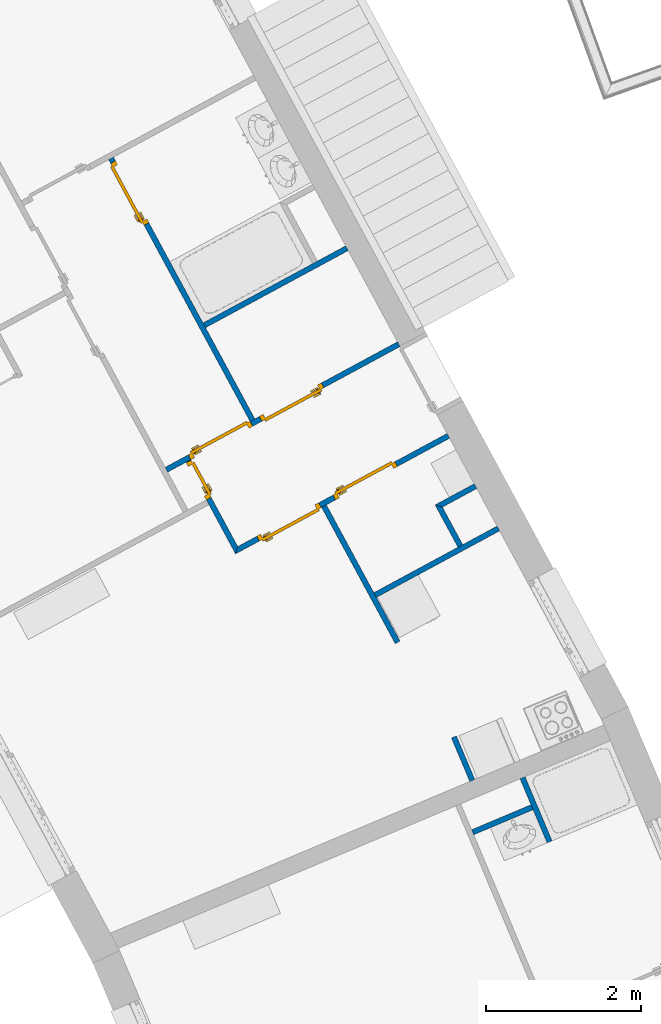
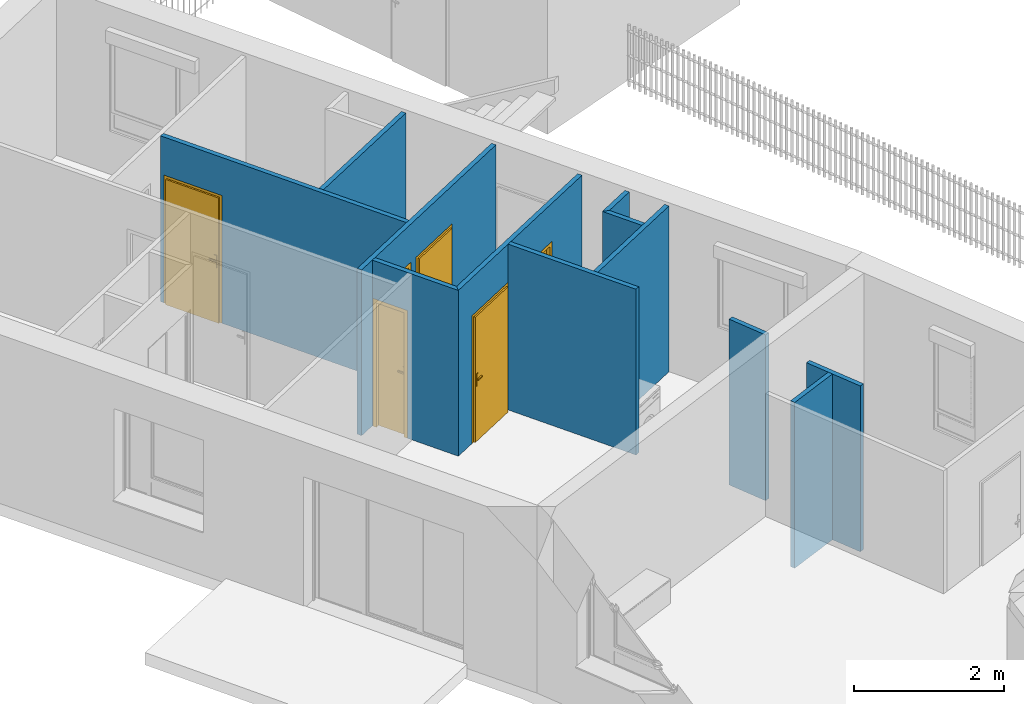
# One storey, part 65 of 195: 12 walls, 6 doors, 6 openings.
"""IFC2X3 building model written with IfcOpenShell, lengths in metres."""

from ifc_helpers import new_model, entity, si_unit, converted_unit, derived_unit, money_unit, direction, frame, origin_with_axes, origin_2d_with_axis, place, context, subcontext, project, spatial, polyline, rectangle, outline, extrude, faceted_brep, source, transform, mapped, material, layer, layer_set, layer_usage, type_object, element, fill, save


model = new_model("IFC2X3")

# Units and contexts
model_context = context("Model", 3, precision=1e-05, world=origin_with_axes(), true_north=direction((0.0, 1.0)))
body_context = subcontext(model_context, "Body", "Model", "MODEL_VIEW")
ifc_project = project(units=[si_unit("LENGTHUNIT", "METRE"), si_unit("AREAUNIT", "SQUARE_METRE"), si_unit("VOLUMEUNIT", "CUBIC_METRE"), converted_unit("PLANEANGLEUNIT", "DEGREE", entity("IfcPlaneAngleMeasure", 0.0174532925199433), si_unit("PLANEANGLEUNIT", "RADIAN"), dimensions=[0, 0, 0, 0, 0, 0, 0]), money_unit("CHF"), converted_unit("TIMEUNIT", "Year", entity("IfcTimeMeasure", 31557600.0), si_unit("TIMEUNIT", "SECOND"), dimensions=[0, 0, 1, 0, 0, 0, 0]), si_unit("MASSUNIT", "GRAM", prefix="KILO"), si_unit("THERMODYNAMICTEMPERATUREUNIT", "DEGREE_CELSIUS"), si_unit("LUMINOUSINTENSITYUNIT", "LUMEN"), si_unit("ENERGYUNIT", "JOULE", prefix="MEGA"), derived_unit("THERMALCONDUCTANCEUNIT", [(si_unit("POWERUNIT", "WATT"), 1), (si_unit("LENGTHUNIT", "METRE"), -1), (si_unit("THERMODYNAMICTEMPERATUREUNIT", "KELVIN"), -1)]), derived_unit("SPECIFICHEATCAPACITYUNIT", [(si_unit("ENERGYUNIT", "JOULE"), 1), (si_unit("MASSUNIT", "GRAM", prefix="KILO"), -1), (si_unit("THERMODYNAMICTEMPERATUREUNIT", "KELVIN"), -1)]), derived_unit("MASSDENSITYUNIT", [(si_unit("MASSUNIT", "GRAM", prefix="KILO"), 1), (si_unit("VOLUMEUNIT", "CUBIC_METRE"), -1)])], contexts=[model_context])

# Site, building, storey
site_placement = place(None, origin_with_axes())
site = spatial("IfcSite", under=ifc_project, at=site_placement, Name="Site", CompositionType="ELEMENT")
building_placement = place(site_placement, origin_with_axes())
building = spatial("IfcBuilding", under=site, at=building_placement, Name="Bâtiment", CompositionType="ELEMENT")
storey_placement = place(building_placement, origin_with_axes())
storey = spatial("IfcBuildingStorey", under=building, at=storey_placement, Name="rdc", CompositionType="ELEMENT", Elevation=0.0)

# Walls
ifc_material = material(Name="Hachure solide 268963992")
ifc_layer = layer(ifc_material, 0.07, ventilated="UNKNOWN")
ifc_layer_set = layer_set([ifc_layer], Name="Cloison 70 0826278243")
ifc_layer_usage_1 = layer_usage(ifc_layer_set, "AXIS2", "POSITIVE", 0.0)
wall_type = type_object("IfcWallType", Name="Cloison 70 0826278243 70", PredefinedType="NOTDEFINED")
wall_1_placement = place(storey_placement, frame((9566.372397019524, -1036.978897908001, 57.0), z_axis=(0.0, 0.0, 1.0), x_axis=(-0.3885669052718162, 0.9214205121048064, 0.0)))
element("IfcWallStandardCase", 1, at=wall_1_placement, inside=storey, type_object=wall_type, material=ifc_layer_usage_1, Name="Mur-149", context=body_context, shape_type="SweptSolid", body=[
    extrude(outline(polyline([(0.0, 0.0), (0.8999999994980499, 0.0), (0.8999999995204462, 0.06999999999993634), (0.0, 0.07000000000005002), (0.0, 0.0)])), origin_with_axes(), (0.0, 0.0, 1.0), 2.7),
])
ifc_layer_usage_2 = layer_usage(ifc_layer_set, "AXIS2", "POSITIVE", 0.0)
wall_2_placement = place(storey_placement, frame((9565.35814409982, -1036.901583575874, 57.0), z_axis=(0.0, 0.0, 1.0), x_axis=(0.9214205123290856, 0.388566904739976, 0.0)))
element("IfcWallStandardCase", 2, at=wall_2_placement, inside=storey, type_object=wall_type, material=ifc_layer_usage_2, Name="Mur-149", context=body_context, shape_type="SweptSolid", body=[
    extrude(outline(polyline([(-1.045918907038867e-10, 0.0), (0.8345116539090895, 0.0), (0.834511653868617, 0.06999999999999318), (-1.325588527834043e-10, 0.07000000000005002), (-1.045918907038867e-10, 0.0)])), origin_with_axes(), (0.0, 0.0, 1.0), 2.7),
])
ifc_layer_usage_3 = layer_usage(ifc_layer_set, "AXIS2", "NEGATIVE", 0.0)
wall_3_placement = place(storey_placement, frame((9565.134494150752, -1035.62117375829, 57.7), z_axis=(0.0, 0.0, 1.0), x_axis=(0.3885669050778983, -0.9214205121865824, 0.0)))
element("IfcWallStandardCase", 3, at=wall_3_placement, inside=storey, type_object=wall_type, material=ifc_layer_usage_3, Name="Mur-149", context=body_context, shape_type="SweptSolid", body=[
    extrude(outline(polyline([(0.0, -0.06999999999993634), (0.6120429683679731, -0.06999999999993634), (0.6120429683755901, 0.0), (0.0, 0.0), (0.0, -0.06999999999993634)])), origin_with_axes(), (0.0, 0.0, 1.0), 2.7),
])
ifc_layer_usage_4 = layer_usage(ifc_layer_set, "AXIS2", "NEGATIVE", 0.0)
wall_4_placement = place(storey_placement, frame((9564.069137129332, -1029.160738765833, 57.7), z_axis=(0.0, 0.0, 1.0), x_axis=(-0.8798137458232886, -0.4753186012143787, 0.0)))
element("IfcWallStandardCase", 4, at=wall_4_placement, inside=storey, type_object=wall_type, material=ifc_layer_usage_4, Name="Mur-149", context=body_context, shape_type="SweptSolid", body=[
    extrude(outline(polyline([(0.3799999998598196, -0.07000000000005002), (2.478769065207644, -0.06999999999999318), (2.478769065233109, 0.0), (0.3799999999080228, 0.0), (0.3799999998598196, -0.07000000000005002)])), origin_with_axes(), (0.0, 0.0, 1.0), 2.7),
])
ifc_layer_usage_5 = layer_usage(ifc_layer_set, "AXIS2", "NEGATIVE", 0.0)
wall_5_placement = place(storey_placement, frame((9563.451637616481, -1032.631627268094, 57.7), z_axis=(0.0, 0.0, 1.0), x_axis=(0.4753186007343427, -0.8798137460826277, 0.0)))
element("IfcWallStandardCase", 5, at=wall_5_placement, inside=storey, type_object=wall_type, material=ifc_layer_usage_5, Name="Mur-149", context=body_context, shape_type="SweptSolid", body=[
    extrude(outline(polyline([(-7.915446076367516e-10, -0.06999999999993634), (2.00396996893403, -0.06999999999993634), (2.003969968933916, 0.0), (-7.685230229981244e-10, 0.0), (-7.915446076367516e-10, -0.06999999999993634)])), origin_with_axes(), (0.0, 0.0, 1.0), 2.7),
])
ifc_layer_usage_6 = layer_usage(ifc_layer_set, "AXIS2", "NEGATIVE", 0.0)
wall_6_placement = place(storey_placement, frame((9565.154317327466, -1033.180441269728, 57.7), z_axis=(0.0, 0.0, 1.0), x_axis=(-0.4753185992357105, 0.8798137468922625, 0.0)))
element("IfcWallStandardCase", 6, at=wall_6_placement, inside=storey, type_object=wall_type, material=ifc_layer_usage_6, Name="Mur-149", context=body_context, shape_type="SweptSolid", body=[
    extrude(outline(polyline([(0.0, -0.07000000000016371), (0.5522261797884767, -0.07000000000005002), (0.6222241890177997, 0.0), (0.0, 0.0), (0.0, -0.07000000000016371)])), origin_with_axes(), (0.0, 0.0, 1.0), 2.7),
])

# Wall, openings, doors
ifc_layer_usage_7 = layer_usage(ifc_layer_set, "AXIS2", "NEGATIVE", 0.0)
wall_7_placement = place(storey_placement, frame((9564.74015638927, -1030.402794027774, 57.7), z_axis=(0.0, 0.0, 1.0), x_axis=(-0.8798137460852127, -0.4753186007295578, 0.0)))
wall_7 = element("IfcWallStandardCase", 7, at=wall_7_placement, inside=storey, type_object=wall_type, material=ifc_layer_usage_7, Name="Mur-149", context=body_context, shape_type="SweptSolid", body=[
    extrude(outline(polyline([(0.3799999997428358, -0.06999999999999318), (3.798769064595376, -0.06999999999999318), (3.79876906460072, 0.0), (0.3799999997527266, 0.0), (0.3799999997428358, -0.06999999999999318)])), origin_with_axes(), (0.0, 0.0, 1.0), 2.7),
])
opening_1_placement = place(wall_7_placement, frame((1.956257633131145, 0.0, 0.0), z_axis=(0.0, 0.0, 1.0), x_axis=(1.0, 0.0, 0.0)))
opening_1 = element("IfcOpeningElement", 8, at=opening_1_placement, cuts=wall_7, Name="Por-299", context=body_context, shape_type="SweptSolid", body=[
    extrude(rectangle(XDim=0.9099999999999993, YDim=2.079999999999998, at=origin_2d_with_axis()), frame((0.0, -0.06999999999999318, 1.039999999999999), z_axis=(0.0, 1.0, 0.0), x_axis=(1.0, 0.0, 0.0)), (0.0, 0.0, 1.0), 0.14),
])
opening_2_placement = place(wall_7_placement, frame((3.002404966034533, 0.0, 0.0), z_axis=(0.0, 0.0, 1.0), x_axis=(1.0, 0.0, 0.0)))
opening_2 = element("IfcOpeningElement", 9, at=opening_2_placement, cuts=wall_7, Name="Por-299", context=body_context, shape_type="SweptSolid", body=[
    extrude(rectangle(XDim=0.9099999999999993, YDim=2.079999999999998, at=origin_2d_with_axis()), frame((0.0, 0.06999999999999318, 1.039999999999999), z_axis=(0.0, -1.0, 0.0), x_axis=(-1.0, 0.0, 0.0)), (0.0, 0.0, 1.0), 0.14),
])
door_style = type_object("IfcDoorStyle", Name="Porte_1v", ConstructionType="NOTDEFINED", OperationType="NOTDEFINED", ParameterTakesPrecedence=False, Sizeable=False)
shared_shape_1 = source(origin_with_axes(), body_context, "Body", "Brep", [
    faceted_brep([(0.455, 0.0, 0.0), (0.415, 0.0, 0.0), (0.415, 0.0, 2.04), (-0.415, 0.0, 2.04), (-0.415, 0.0, 0.0), (-0.455, 0.0, 0.0), (-0.455, 0.0, 2.08), (0.455, 0.0, 2.08), (0.455, -0.07, 0.0), (0.4, -0.07, 0.0), (0.4, -0.015, 0.0), (0.415, -0.015, 0.0), (0.415, -0.015, 2.04), (-0.415, -0.015, 2.04), (-0.415, -0.015, 0.0), (-0.4, -0.015, 0.0), (-0.4, -0.07, 0.0), (-0.455, -0.07, 0.0), (-0.455, -0.07, 2.08), (0.455, -0.07, 2.08), (-0.4, -0.07, 2.025), (0.4, -0.07, 2.025), (0.4, -0.015, 2.025), (-0.4, -0.015, 2.025)], [[[0, 1, 2, 3, 4, 5, 6, 7]], [[0, 8, 9, 10, 11, 1]], [[1, 11, 12, 2]], [[2, 12, 13, 3]], [[3, 13, 14, 4]], [[5, 4, 14, 15, 16, 17]], [[18, 6, 5, 17]], [[19, 7, 6, 18]], [[8, 0, 7, 19]], [[9, 8, 19, 18, 17, 16, 20, 21]], [[10, 9, 21, 22]], [[11, 10, 22, 23, 15, 14, 13, 12]], [[23, 20, 16, 15]], [[22, 21, 20, 23]]]),
    faceted_brep([(-0.35, -0.015, 0.9), (-0.39, -0.015, 0.9), (-0.39, -0.015, 1.1), (-0.35, -0.015, 1.1), (-0.35, -0.025, 0.9), (-0.39, -0.025, 0.9), (-0.39, -0.025, 1.1), (-0.35, -0.025, 1.1)], [[[0, 1, 2, 3]], [[1, 0, 4, 5]], [[2, 1, 5, 6]], [[3, 2, 6, 7]], [[0, 3, 7, 4]], [[5, 4, 7, 6]]]),
    faceted_brep([(-0.28, -0.025, 1.0), (-0.38, -0.025, 1.0), (-0.38, -0.025, 1.02), (-0.28, -0.025, 1.02), (-0.28, -0.045, 1.0), (-0.38, -0.045, 1.0), (-0.38, -0.045, 1.02), (-0.28, -0.045, 1.02)], [[[0, 1, 2, 3]], [[1, 0, 4, 5]], [[2, 1, 5, 6]], [[3, 2, 6, 7]], [[0, 3, 7, 4]], [[5, 4, 7, 6]]]),
    faceted_brep([(-0.35, 0.035, 0.9), (-0.39, 0.035, 0.9), (-0.39, 0.035, 1.1), (-0.35, 0.035, 1.1), (-0.35, 0.025, 0.9), (-0.39, 0.025, 0.9), (-0.39, 0.025, 1.1), (-0.35, 0.025, 1.1)], [[[0, 1, 2, 3]], [[1, 0, 4, 5]], [[2, 1, 5, 6]], [[3, 2, 6, 7]], [[0, 3, 7, 4]], [[5, 4, 7, 6]]]),
    faceted_brep([(-0.28, 0.05500000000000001, 1.0), (-0.38, 0.05500000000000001, 1.0), (-0.38, 0.05500000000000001, 1.02), (-0.28, 0.05500000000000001, 1.02), (-0.28, 0.035, 1.0), (-0.38, 0.035, 1.0), (-0.38, 0.035, 1.02), (-0.28, 0.035, 1.02)], [[[0, 1, 2, 3]], [[1, 0, 4, 5]], [[2, 1, 5, 6]], [[3, 2, 6, 7]], [[0, 3, 7, 4]], [[5, 4, 7, 6]]]),
    faceted_brep([(-0.415, 0.025, 0.0), (0.415, 0.025, 0.0), (0.415, -0.015, 0.0), (-0.415, -0.015, 0.0), (-0.415, 0.025, 2.04), (0.415, 0.025, 2.04), (0.415, -0.015, 2.04), (-0.415, -0.015, 2.04)], [[[0, 1, 2, 3]], [[0, 4, 5, 1]], [[1, 5, 6, 2]], [[3, 2, 6, 7]], [[4, 0, 3, 7]], [[5, 4, 7, 6]]]),
])
door_1_placement = place(opening_1_placement, frame((-0.4150000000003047, 0.0, 0.0), z_axis=(0.0, 0.0, 1.0), x_axis=(1.0, 0.0, 0.0)))
door_1 = element("IfcDoor", 10, at=door_1_placement, inside=storey, type_object=door_style, Name="Por-299", OverallHeight=2.04, OverallWidth=0.83, context=body_context, shape_type="MappedRepresentation", body=[
    mapped(shared_shape_1, transform((0.4150000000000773, 0.0, 0.0))),
])
fill(opening_1, door_1)
door_2_placement = place(opening_2_placement, frame((0.4149999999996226, 0.0, 0.0), z_axis=(0.0, 0.0, 1.0), x_axis=(-1.0, 0.0, 0.0)))
door_2 = element("IfcDoor", 11, at=door_2_placement, inside=storey, type_object=door_style, Name="Por-299", OverallHeight=2.04, OverallWidth=0.83, context=body_context, shape_type="MappedRepresentation", body=[
    mapped(shared_shape_1, transform((0.4150000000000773, 0.06999999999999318, 0.0))),
])
fill(opening_2, door_2)

# Walls
ifc_layer_usage_8 = layer_usage(ifc_layer_set, "AXIS2", "POSITIVE", 0.0)
wall_8_placement = place(storey_placement, frame((9564.099102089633, -1033.830082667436, 57.7), z_axis=(0.0, 0.0, 1.0), x_axis=(0.8798137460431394, 0.4753186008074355, 0.0)))
element("IfcWallStandardCase", 12, at=wall_8_placement, inside=storey, type_object=wall_type, material=ifc_layer_usage_8, Name="Mur-149", context=body_context, shape_type="SweptSolid", body=[
    extrude(outline(polyline([(-1.220996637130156e-10, 0.0), (1.813062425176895, 0.0), (1.813062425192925, 0.07000000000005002), (-1.161879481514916e-10, 0.07000000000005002), (-1.220996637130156e-10, 0.0)])), origin_with_axes(), (0.0, 0.0, 1.0), 2.7),
])
ifc_layer_usage_9 = layer_usage(ifc_layer_set, "AXIS2", "POSITIVE", 0.0)
wall_9_placement = place(storey_placement, frame((9564.891834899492, -1032.694586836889, 57.7), z_axis=(0.0, 0.0, 1.0), x_axis=(0.8798002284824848, 0.4753436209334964, 0.0)))
element("IfcWallStandardCase", 13, at=wall_9_placement, inside=storey, type_object=wall_type, material=ifc_layer_usage_9, Name="Mur-149", context=body_context, shape_type="SweptSolid", body=[
    extrude(outline(polyline([(0.07000000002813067, 0.0), (0.5758829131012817, 0.0), (0.5758849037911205, 0.07000000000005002), (1.990798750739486e-06, 0.06999999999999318), (0.07000000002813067, 0.0)])), origin_with_axes(), (0.0, 0.0, 1.0), 2.7),
])

# Wall, opening, door
ifc_layer_usage_10 = layer_usage(ifc_layer_set, "AXIS2", "NEGATIVE", 0.0)
wall_10_placement = place(storey_placement, frame((9562.276464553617, -1033.26651347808, 57.7), z_axis=(0.0, 0.0, 1.0), x_axis=(-0.4753186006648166, 0.8798137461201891, 0.0)))
wall_10 = element("IfcWallStandardCase", 14, at=wall_10_placement, inside=storey, type_object=wall_type, material=ifc_layer_usage_10, Name="Mur-149", context=body_context, shape_type="SweptSolid", body=[
    extrude(outline(polyline([(0.07000000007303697, -0.06999999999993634), (1.348501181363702, -0.07000000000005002), (1.348501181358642, 0.0), (0.0, 0.0), (0.07000000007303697, -0.06999999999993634)])), origin_with_axes(), (0.0, 0.0, 1.0), 2.7),
])
opening_3_placement = place(wall_10_placement, frame((1.067283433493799, 0.0, 0.0), z_axis=(0.0, 0.0, 1.0), x_axis=(1.0, 0.0, 0.0)))
opening_3 = element("IfcOpeningElement", 15, at=opening_3_placement, cuts=wall_10, Name="Por-320", context=body_context, shape_type="SweptSolid", body=[
    extrude(rectangle(XDim=0.547405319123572, YDim=2.079999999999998, at=origin_2d_with_axis()), frame((-2.722629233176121e-09, 0.06999999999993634, 1.039999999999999), z_axis=(0.0, 1.0, 0.0), x_axis=(1.0, 0.0, 0.0)), (0.0, 0.0, -1.0), 0.14),
])
shared_shape_2 = source(origin_with_axes(), body_context, "Body", "Brep", [
    faceted_brep([(-0.2737026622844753, 0.0, 0.0), (-0.2737026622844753, 0.0, 2.08), (0.2737026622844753, 0.0, 2.08), (0.2737026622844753, 0.0, 0.0), (0.2337026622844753, 0.0, 0.0), (0.2337026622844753, 0.0, 2.04), (-0.2337026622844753, 0.0, 2.04), (-0.2337026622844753, 0.0, 0.0), (-0.2737026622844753, -0.07, 0.0), (-0.2737026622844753, -0.07, 2.08), (0.2737026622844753, -0.07, 2.08), (0.2737026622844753, -0.07, 0.0), (0.2187026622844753, -0.07, 0.0), (0.2187026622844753, -0.015, 0.0), (0.2337026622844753, -0.015, 0.0), (0.2337026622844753, -0.015, 2.04), (-0.2337026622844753, -0.015, 2.04), (-0.2337026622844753, -0.015, 0.0), (-0.2187026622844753, -0.015, 0.0), (-0.2187026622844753, -0.07, 0.0), (-0.2187026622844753, -0.07, 2.025), (0.2187026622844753, -0.07, 2.025), (0.2187026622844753, -0.015, 2.025), (-0.2187026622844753, -0.015, 2.025)], [[[0, 1, 2, 3, 4, 5, 6, 7]], [[8, 9, 1, 0]], [[9, 10, 2, 1]], [[10, 11, 3, 2]], [[3, 11, 12, 13, 14, 4]], [[5, 4, 14, 15]], [[6, 5, 15, 16]], [[7, 6, 16, 17]], [[0, 7, 17, 18, 19, 8]], [[19, 20, 21, 12, 11, 10, 9, 8]], [[22, 13, 12, 21]], [[17, 16, 15, 14, 13, 22, 23, 18]], [[18, 23, 20, 19]], [[23, 22, 21, 20]]]),
    faceted_brep([(0.1687026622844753, -0.015, 0.9), (0.1687026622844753, -0.015, 1.1), (0.2087026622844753, -0.015, 1.1), (0.2087026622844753, -0.015, 0.9), (0.1687026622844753, -0.025, 0.9), (0.1687026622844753, -0.025, 1.1), (0.2087026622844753, -0.025, 1.1), (0.2087026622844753, -0.025, 0.9)], [[[0, 1, 2, 3]], [[0, 4, 5, 1]], [[1, 5, 6, 2]], [[2, 6, 7, 3]], [[3, 7, 4, 0]], [[7, 6, 5, 4]]]),
    faceted_brep([(0.0987026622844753, -0.025, 1.0), (0.0987026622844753, -0.025, 1.02), (0.1987026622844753, -0.025, 1.02), (0.1987026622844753, -0.025, 1.0), (0.0987026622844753, -0.045, 1.0), (0.0987026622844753, -0.045, 1.02), (0.1987026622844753, -0.045, 1.02), (0.1987026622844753, -0.045, 1.0)], [[[0, 1, 2, 3]], [[0, 4, 5, 1]], [[1, 5, 6, 2]], [[2, 6, 7, 3]], [[3, 7, 4, 0]], [[7, 6, 5, 4]]]),
    faceted_brep([(0.1687026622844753, 0.035, 0.9), (0.1687026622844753, 0.035, 1.1), (0.2087026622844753, 0.035, 1.1), (0.2087026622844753, 0.035, 0.9), (0.1687026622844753, 0.025, 0.9), (0.1687026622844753, 0.025, 1.1), (0.2087026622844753, 0.025, 1.1), (0.2087026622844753, 0.025, 0.9)], [[[0, 1, 2, 3]], [[0, 4, 5, 1]], [[1, 5, 6, 2]], [[2, 6, 7, 3]], [[3, 7, 4, 0]], [[7, 6, 5, 4]]]),
    faceted_brep([(0.0987026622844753, 0.05500000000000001, 1.0), (0.0987026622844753, 0.05500000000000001, 1.02), (0.1987026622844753, 0.05500000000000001, 1.02), (0.1987026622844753, 0.05500000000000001, 1.0), (0.0987026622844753, 0.035, 1.0), (0.0987026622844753, 0.035, 1.02), (0.1987026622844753, 0.035, 1.02), (0.1987026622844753, 0.035, 1.0)], [[[0, 1, 2, 3]], [[0, 4, 5, 1]], [[1, 5, 6, 2]], [[2, 6, 7, 3]], [[3, 7, 4, 0]], [[7, 6, 5, 4]]]),
    faceted_brep([(0.2337026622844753, 0.025, 0.0), (0.2337026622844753, -0.015, 0.0), (-0.2337026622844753, -0.015, 0.0), (-0.2337026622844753, 0.025, 0.0), (0.2337026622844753, 0.025, 2.04), (0.2337026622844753, -0.015, 2.04), (-0.2337026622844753, -0.015, 2.04), (-0.2337026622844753, 0.025, 2.04)], [[[0, 1, 2, 3]], [[4, 5, 1, 0]], [[1, 5, 6, 2]], [[3, 2, 6, 7]], [[0, 3, 7, 4]], [[7, 6, 5, 4]]]),
])
door_3_placement = place(opening_3_placement, frame((0.233702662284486, 0.0, 0.0), z_axis=(0.0, 0.0, 1.0), x_axis=(-1.0, 0.0, 0.0)))
door_3 = element("IfcDoor", 16, at=door_3_placement, inside=storey, type_object=door_style, Name="Por-320", OverallHeight=2.04, OverallWidth=0.467405, context=body_context, shape_type="MappedRepresentation", body=[
    mapped(shared_shape_2, transform((0.2337026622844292, 0.07000000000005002, 0.0))),
])
fill(opening_3, door_3)

ifc_layer_usage_11 = layer_usage(ifc_layer_set, "AXIS2", "NEGATIVE", 0.0)
wall_11_placement = place(storey_placement, frame((9560.696009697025, -1028.132050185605, 57.7), z_axis=(0.0, 0.0, 1.0), x_axis=(0.4753186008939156, -0.8798137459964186, 0.0)))
wall_11 = element("IfcWallStandardCase", 17, at=wall_11_placement, inside=storey, type_object=wall_type, material=ifc_layer_usage_11, Name="Mur-149", context=body_context, shape_type="SweptSolid", body=[
    extrude(outline(polyline([(-9.787299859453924e-10, -0.07000000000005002), (3.850089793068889, -0.06999999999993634), (3.85008979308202, 0.0), (-9.381437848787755e-10, 0.0), (-9.787299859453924e-10, -0.07000000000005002)])), origin_with_axes(), (0.0, 0.0, 1.0), 2.7),
])
opening_4_placement = place(wall_11_placement, frame((0.5097203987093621, 0.0, 0.0), z_axis=(0.0, 0.0, 1.0), x_axis=(1.0, 0.0, 0.0)))
opening_4 = element("IfcOpeningElement", 18, at=opening_4_placement, cuts=wall_11, Name="Por-299", context=body_context, shape_type="SweptSolid", body=[
    extrude(rectangle(XDim=0.9099999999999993, YDim=2.079999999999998, at=origin_2d_with_axis()), frame((0.0, 0.07000000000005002, 1.039999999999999), z_axis=(0.0, -1.0, 0.0), x_axis=(-1.0, 0.0, 0.0)), (0.0, 0.0, 1.0), 0.14),
])
door_4_placement = place(opening_4_placement, frame((0.4149999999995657, 0.0, 0.0), z_axis=(0.0, 0.0, 1.0), x_axis=(-1.0, 0.0, 0.0)))
door_4 = element("IfcDoor", 19, at=door_4_placement, inside=storey, type_object=door_style, Name="Por-299", OverallHeight=2.04, OverallWidth=0.83, context=body_context, shape_type="MappedRepresentation", body=[
    mapped(shared_shape_1, transform((0.4150000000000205, 0.06999999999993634, 0.0))),
])
fill(opening_4, door_4)

# Wall, openings, doors
ifc_layer_usage_12 = layer_usage(ifc_layer_set, "AXIS2", "POSITIVE", 0.0)
wall_12_placement = place(storey_placement, frame((9562.276464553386, -1033.266513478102, 57.7), z_axis=(0.0, 0.0, 1.0), x_axis=(0.8798137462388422, 0.4753186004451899, 0.0)))
wall_12 = element("IfcWallStandardCase", 20, at=wall_12_placement, inside=storey, type_object=wall_type, material=ifc_layer_usage_12, Name="Mur-149", context=body_context, shape_type="SweptSolid", body=[
    extrude(outline(polyline([(2.146407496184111e-10, 0.0), (3.148769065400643, 0.0), (3.14876906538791, 0.06999999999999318), (0.07000000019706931, 0.06999999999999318), (2.146407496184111e-10, 0.0)])), origin_with_axes(), (0.0, 0.0, 1.0), 2.7),
])
opening_5_placement = place(wall_12_placement, frame((1.926126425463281, 0.0, 0.0), z_axis=(0.0, 0.0, 1.0), x_axis=(1.0, 0.0, 0.0)))
opening_5 = element("IfcOpeningElement", 21, at=opening_5_placement, cuts=wall_12, Name="Por-299", context=body_context, shape_type="SweptSolid", body=[
    extrude(rectangle(XDim=0.9099999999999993, YDim=2.079999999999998, at=origin_2d_with_axis()), frame((0.0, -0.06999999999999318, 1.039999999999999), z_axis=(0.0, 1.0, 0.0), x_axis=(1.0, 0.0, 0.0)), (0.0, 0.0, 1.0), 0.14),
])
opening_6_placement = place(wall_12_placement, frame((0.8050034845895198, 0.0, 0.0), z_axis=(0.0, 0.0, 1.0), x_axis=(1.0, 0.0, 0.0)))
opening_6 = element("IfcOpeningElement", 22, at=opening_6_placement, cuts=wall_12, Name="Por-299", context=body_context, shape_type="SweptSolid", body=[
    extrude(rectangle(XDim=0.9099999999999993, YDim=2.079999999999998, at=origin_2d_with_axis()), frame((0.0, 0.06999999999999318, 1.039999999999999), z_axis=(0.0, 1.0, 0.0), x_axis=(1.0, 0.0, 0.0)), (0.0, 0.0, -1.0), 0.14),
])
door_5_placement = place(opening_5_placement, frame((-0.4149999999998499, 0.0, 0.0), z_axis=(0.0, 0.0, 1.0), x_axis=(1.0, 0.0, 0.0)))
door_5 = element("IfcDoor", 23, at=door_5_placement, inside=storey, type_object=door_style, Name="Por-299", OverallHeight=2.04, OverallWidth=0.83, context=body_context, shape_type="MappedRepresentation", body=[
    mapped(shared_shape_1, transform((0.4149999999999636, 0.06999999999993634, 0.0))),
])
fill(opening_5, door_5)
shared_shape_3 = source(origin_with_axes(), body_context, "Body", "Brep", [
    faceted_brep([(-0.455, 0.0, 0.0), (-0.455, 0.0, 2.08), (0.455, 0.0, 2.08), (0.455, 0.0, 0.0), (0.415, 0.0, 0.0), (0.415, 0.0, 2.04), (-0.415, 0.0, 2.04), (-0.415, 0.0, 0.0), (-0.455, -0.07, 0.0), (-0.455, -0.07, 2.08), (0.455, -0.07, 2.08), (0.455, -0.07, 0.0), (0.4, -0.07, 0.0), (0.4, -0.015, 0.0), (0.415, -0.015, 0.0), (0.415, -0.015, 2.04), (-0.415, -0.015, 2.04), (-0.415, -0.015, 0.0), (-0.4, -0.015, 0.0), (-0.4, -0.07, 0.0), (-0.4, -0.07, 2.025), (0.4, -0.07, 2.025), (0.4, -0.015, 2.025), (-0.4, -0.015, 2.025)], [[[0, 1, 2, 3, 4, 5, 6, 7]], [[8, 9, 1, 0]], [[9, 10, 2, 1]], [[10, 11, 3, 2]], [[3, 11, 12, 13, 14, 4]], [[5, 4, 14, 15]], [[6, 5, 15, 16]], [[7, 6, 16, 17]], [[0, 7, 17, 18, 19, 8]], [[19, 20, 21, 12, 11, 10, 9, 8]], [[22, 13, 12, 21]], [[17, 16, 15, 14, 13, 22, 23, 18]], [[18, 23, 20, 19]], [[23, 22, 21, 20]]]),
    faceted_brep([(0.35, -0.015, 0.9), (0.35, -0.015, 1.1), (0.39, -0.015, 1.1), (0.39, -0.015, 0.9), (0.35, -0.025, 0.9), (0.35, -0.025, 1.1), (0.39, -0.025, 1.1), (0.39, -0.025, 0.9)], [[[0, 1, 2, 3]], [[0, 4, 5, 1]], [[1, 5, 6, 2]], [[2, 6, 7, 3]], [[3, 7, 4, 0]], [[7, 6, 5, 4]]]),
    faceted_brep([(0.28, -0.025, 1.0), (0.28, -0.025, 1.02), (0.38, -0.025, 1.02), (0.38, -0.025, 1.0), (0.28, -0.045, 1.0), (0.28, -0.045, 1.02), (0.38, -0.045, 1.02), (0.38, -0.045, 1.0)], [[[0, 1, 2, 3]], [[0, 4, 5, 1]], [[1, 5, 6, 2]], [[2, 6, 7, 3]], [[3, 7, 4, 0]], [[7, 6, 5, 4]]]),
    faceted_brep([(0.35, 0.035, 0.9), (0.35, 0.035, 1.1), (0.39, 0.035, 1.1), (0.39, 0.035, 0.9), (0.35, 0.025, 0.9), (0.35, 0.025, 1.1), (0.39, 0.025, 1.1), (0.39, 0.025, 0.9)], [[[0, 1, 2, 3]], [[0, 4, 5, 1]], [[1, 5, 6, 2]], [[2, 6, 7, 3]], [[3, 7, 4, 0]], [[7, 6, 5, 4]]]),
    faceted_brep([(0.28, 0.05500000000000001, 1.0), (0.28, 0.05500000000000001, 1.02), (0.38, 0.05500000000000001, 1.02), (0.38, 0.05500000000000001, 1.0), (0.28, 0.035, 1.0), (0.28, 0.035, 1.02), (0.38, 0.035, 1.02), (0.38, 0.035, 1.0)], [[[0, 1, 2, 3]], [[0, 4, 5, 1]], [[1, 5, 6, 2]], [[2, 6, 7, 3]], [[3, 7, 4, 0]], [[7, 6, 5, 4]]]),
    faceted_brep([(0.415, 0.025, 0.0), (0.415, -0.015, 0.0), (-0.415, -0.015, 0.0), (-0.415, 0.025, 0.0), (0.415, 0.025, 2.04), (0.415, -0.015, 2.04), (-0.415, -0.015, 2.04), (-0.415, 0.025, 2.04)], [[[0, 1, 2, 3]], [[4, 5, 1, 0]], [[1, 5, 6, 2]], [[3, 2, 6, 7]], [[0, 3, 7, 4]], [[7, 6, 5, 4]]]),
])
door_6_placement = place(opening_6_placement, frame((0.4150000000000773, 0.0, 0.0), z_axis=(0.0, 0.0, 1.0), x_axis=(-1.0, 0.0, 0.0)))
door_6 = element("IfcDoor", 24, at=door_6_placement, inside=storey, type_object=door_style, Name="Por-299", OverallHeight=2.04, OverallWidth=0.83, context=body_context, shape_type="MappedRepresentation", body=[
    mapped(shared_shape_3, transform((0.4149999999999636, 0.0, 0.0))),
])
fill(opening_6, door_6)

save(model, "model.ifc")
